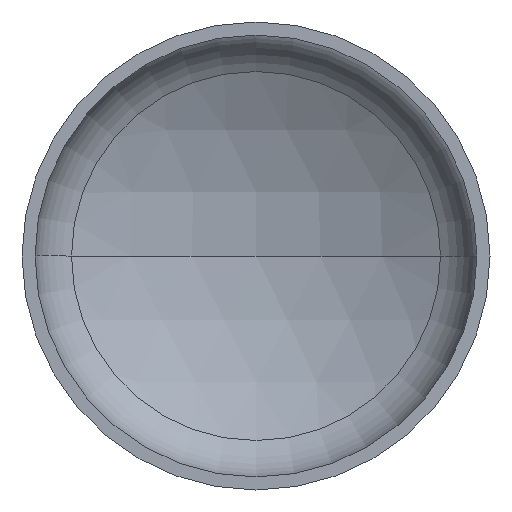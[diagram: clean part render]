
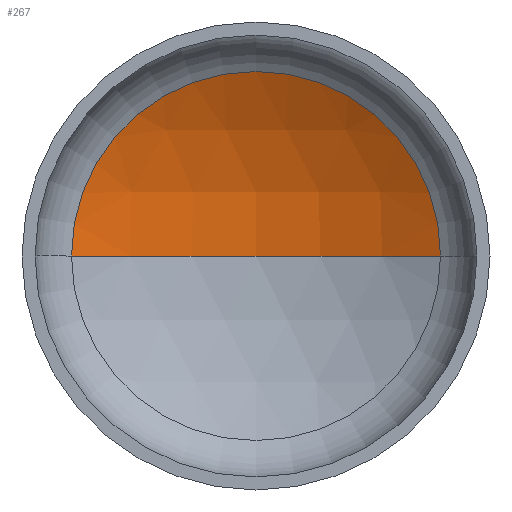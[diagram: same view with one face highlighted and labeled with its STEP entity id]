
A CAD part, front view. The second image highlights one B-rep face of the part: STEP entity #267.
In plain terms, the highlighted spherical face has radius 2240 mm.
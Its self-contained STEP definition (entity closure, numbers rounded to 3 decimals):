
#2 = AXIS2_PLACEMENT_3D ( 'NONE', #206, #372, #376 ) ;
#13 = DIRECTION ( 'NONE',  ( 0., 0., -1. ) ) ;
#20 = EDGE_LOOP ( 'NONE', ( #139, #127, #99 ) ) ;
#23 = AXIS2_PLACEMENT_3D ( 'NONE', #167, #173, #169 ) ;
#40 = VERTEX_POINT ( 'NONE', #291 ) ;
#41 = AXIS2_PLACEMENT_3D ( 'NONE', #50, #190, #192 ) ;
#48 = AXIS2_PLACEMENT_3D ( 'NONE', #199, #13, #387 ) ;
#50 = CARTESIAN_POINT ( 'NONE',  ( 0., 494.157, 0. ) ) ;
#56 = VERTEX_POINT ( 'NONE', #283 ) ;
#99 = ORIENTED_EDGE ( 'NONE', *, *, #300, .T. ) ;
#127 = ORIENTED_EDGE ( 'NONE', *, *, #318, .T. ) ;
#139 = ORIENTED_EDGE ( 'NONE', *, *, #370, .F. ) ;
#142 = VERTEX_POINT ( 'NONE', #309 ) ;
#167 = CARTESIAN_POINT ( 'NONE',  ( 0., -1454.94, 0. ) ) ;
#169 = DIRECTION ( 'NONE',  ( -1., 0., 0. ) ) ;
#173 = DIRECTION ( 'NONE',  ( 0., 0., -1. ) ) ;
#190 = DIRECTION ( 'NONE',  ( 0., -1., 0. ) ) ;
#192 = DIRECTION ( 'NONE',  ( 1., 0., 0. ) ) ;
#199 = CARTESIAN_POINT ( 'NONE',  ( 0., -1454.94, 0. ) ) ;
#206 = CARTESIAN_POINT ( 'NONE',  ( 0., -1454.94, 0. ) ) ;
#217 = CIRCLE ( 'NONE', #41, 1103.912 ) ;
#267 = ADVANCED_FACE ( 'NONE', ( #285 ), #367, .F. ) ;
#283 = CARTESIAN_POINT ( 'NONE',  ( 1103.912, 494.157, 0. ) ) ;
#285 = FACE_OUTER_BOUND ( 'NONE', #20, .T. ) ;
#291 = CARTESIAN_POINT ( 'NONE',  ( -1103.912, 494.157, 0. ) ) ;
#300 = EDGE_CURVE ( 'NONE', #56, #40, #217, .T. ) ;
#305 = CIRCLE ( 'NONE', #2, 2240. ) ;
#309 = CARTESIAN_POINT ( 'NONE',  ( 0., 785.06, 0. ) ) ;
#318 = EDGE_CURVE ( 'NONE', #142, #56, #390, .T. ) ;
#367 = SPHERICAL_SURFACE ( 'NONE', #48, 2240. ) ;
#370 = EDGE_CURVE ( 'NONE', #142, #40, #305, .T. ) ;
#372 = DIRECTION ( 'NONE',  ( 0., 0., 1. ) ) ;
#376 = DIRECTION ( 'NONE',  ( 1., 0., 0. ) ) ;
#387 = DIRECTION ( 'NONE',  ( -1., 0., 0. ) ) ;
#390 = CIRCLE ( 'NONE', #23, 2240. ) ;
